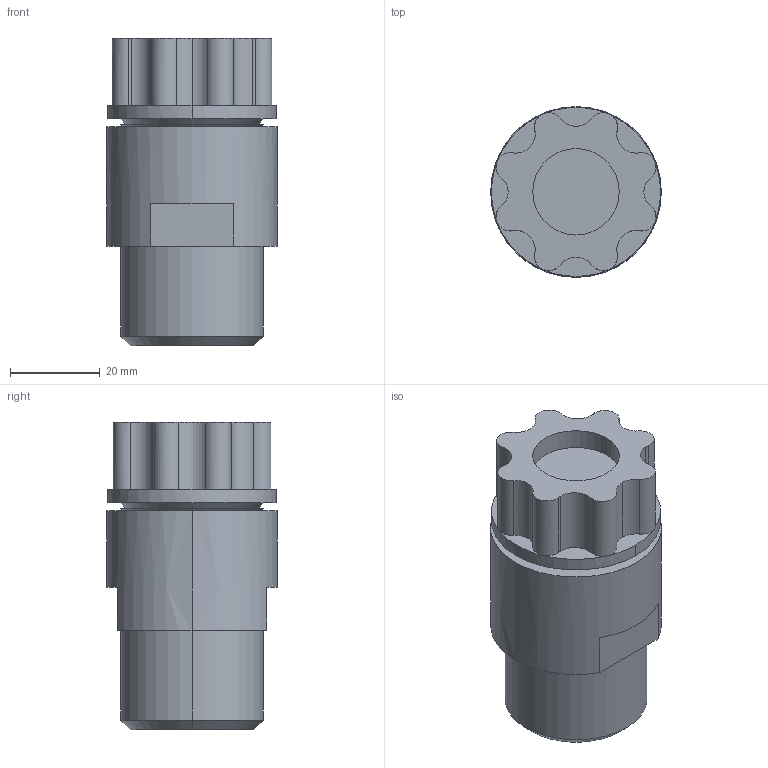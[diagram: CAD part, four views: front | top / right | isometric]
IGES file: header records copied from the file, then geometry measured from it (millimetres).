
Start section: SolidWorks IGES file using analytic representation for surfaces
Global section: file name: S:\Product Visuals\Defeatured Models and Parts Library\Parts Library IGES & STEP\Liquid Fittings\Front Mount liquid Fittings\Synchro Flare\60LPM\Fitting Synchro-Flare 12.IGS; native system: SolidWorks 2012; preprocessor: SolidWorks 2012; author: rachel.dressel; date: 120926.122215; units: inch
Bounding box: 38.1 x 38.1 x 68.58 mm (x, y, z)
Volume: 69774.2 mm3; surface area: 18393.9 mm2
Topology: 2 solids, 2 shells, 141 faces, 305 edges, 198 vertices
Faces by surface type: revolution 95, plane 46
